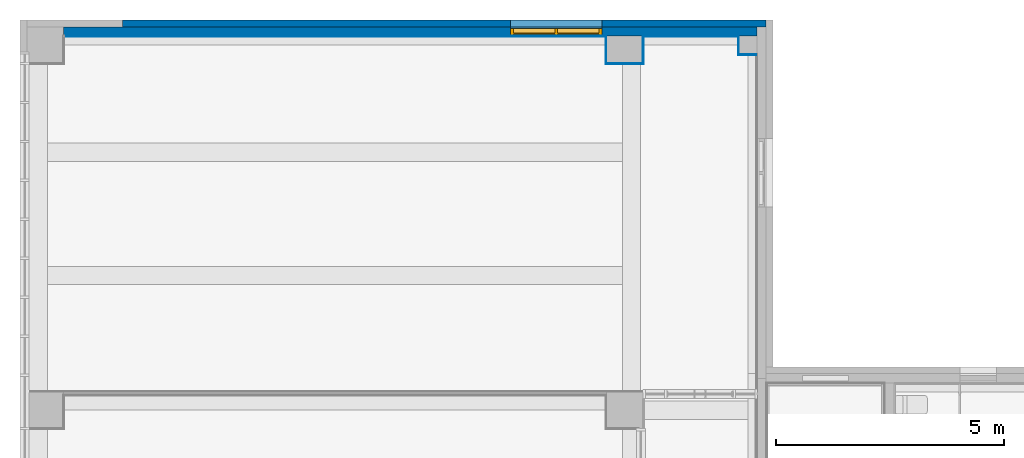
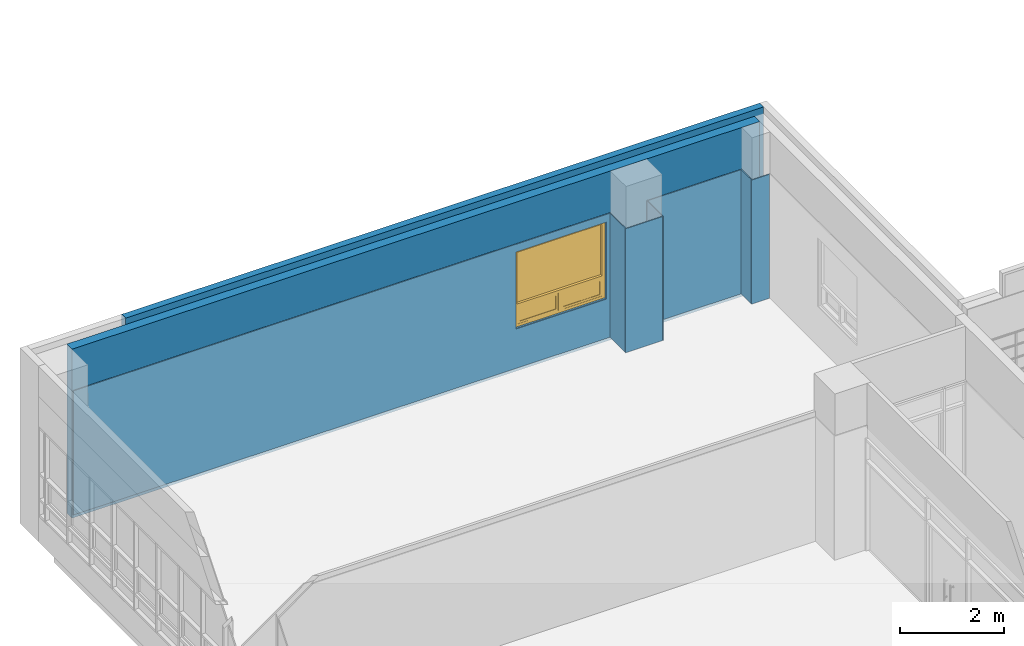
# One storey, part 67 of 81: 9 walls, 1 window, 3 openings.
"""IFC2X3 building model written with IfcOpenShell, lengths in millimetres."""

from ifc_helpers import new_model, entity, si_unit, converted_unit, derived_unit, direction, frame, frame_2d, origin, origin_2d_with_axis, place, context, subcontext, project, spatial, polyline, rectangle, extrude, clip, bounded_halfspace, faceted_brep, source, transform, mapped, material, material_list, layer, layer_set, layer_usage, type_object, type_shapes, element, fill, save


model = new_model("IFC2X3")

# Units and contexts
model_context = context("Model", 3, precision=0.01, world=origin(), true_north=direction((6.123031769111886e-17, 1.0)))
body_context = subcontext(model_context, "Body", "Model", "MODEL_VIEW")
ifc_project = project(units=[si_unit("LENGTHUNIT", "METRE", prefix="MILLI"), si_unit("AREAUNIT", "SQUARE_METRE"), si_unit("VOLUMEUNIT", "CUBIC_METRE"), converted_unit("PLANEANGLEUNIT", "DEGREE", entity("IfcRatioMeasure", 0.017453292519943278), si_unit("PLANEANGLEUNIT", "RADIAN"), dimensions=[0, 0, 0, 0, 0, 0, 0]), si_unit("MASSUNIT", "GRAM", prefix="KILO"), derived_unit("MASSDENSITYUNIT", [(si_unit("MASSUNIT", "GRAM", prefix="KILO"), 1), (si_unit("LENGTHUNIT", "METRE"), -3)]), derived_unit("MOMENTOFINERTIAUNIT", [(si_unit("LENGTHUNIT", "METRE"), 4)]), si_unit("TIMEUNIT", "SECOND"), si_unit("FREQUENCYUNIT", "HERTZ"), si_unit("THERMODYNAMICTEMPERATUREUNIT", "DEGREE_CELSIUS"), derived_unit("THERMALTRANSMITTANCEUNIT", [(si_unit("MASSUNIT", "GRAM", prefix="KILO"), 1), (si_unit("THERMODYNAMICTEMPERATUREUNIT", "KELVIN"), -1), (si_unit("TIMEUNIT", "SECOND"), -3)]), derived_unit("VOLUMETRICFLOWRATEUNIT", [(si_unit("LENGTHUNIT", "METRE"), 3), (si_unit("TIMEUNIT", "SECOND"), -1)]), derived_unit("MASSFLOWRATEUNIT", [(si_unit("MASSUNIT", "GRAM", prefix="KILO"), 1), (si_unit("TIMEUNIT", "SECOND"), -1)]), derived_unit("ROTATIONALFREQUENCYUNIT", [(si_unit("TIMEUNIT", "SECOND"), -1)]), si_unit("ELECTRICCURRENTUNIT", "AMPERE"), si_unit("ELECTRICVOLTAGEUNIT", "VOLT"), si_unit("POWERUNIT", "WATT"), si_unit("FORCEUNIT", "NEWTON", prefix="KILO"), si_unit("ILLUMINANCEUNIT", "LUX"), si_unit("LUMINOUSFLUXUNIT", "LUMEN"), si_unit("LUMINOUSINTENSITYUNIT", "CANDELA"), derived_unit("USERDEFINED", [(si_unit("MASSUNIT", "GRAM", prefix="KILO"), -1), (si_unit("LENGTHUNIT", "METRE"), -2), (si_unit("TIMEUNIT", "SECOND"), 3), (si_unit("LUMINOUSFLUXUNIT", "LUMEN"), 1)]), derived_unit("SOUNDPOWERUNIT", [(si_unit("MASSUNIT", "GRAM", prefix="KILO"), 1), (si_unit("LENGTHUNIT", "METRE"), 2), (si_unit("TIMEUNIT", "SECOND"), -3)]), derived_unit("SOUNDPRESSUREUNIT", [(si_unit("MASSUNIT", "GRAM", prefix="KILO"), 1), (si_unit("LENGTHUNIT", "METRE"), -1), (si_unit("TIMEUNIT", "SECOND"), -2)]), derived_unit("LINEARVELOCITYUNIT", [(si_unit("LENGTHUNIT", "METRE"), 1), (si_unit("TIMEUNIT", "SECOND"), -1)]), si_unit("PRESSUREUNIT", "PASCAL"), derived_unit("USERDEFINED", [(si_unit("LENGTHUNIT", "METRE"), -2), (si_unit("MASSUNIT", "GRAM", prefix="KILO"), 1), (si_unit("TIMEUNIT", "SECOND"), -2)]), derived_unit("LINEARFORCEUNIT", [(si_unit("MASSUNIT", "GRAM", prefix="KILO"), 1), (si_unit("LENGTHUNIT", "METRE"), 1), (si_unit("TIMEUNIT", "SECOND"), -2), (si_unit("LENGTHUNIT", "METRE"), -1)]), derived_unit("PLANARFORCEUNIT", [(si_unit("MASSUNIT", "GRAM", prefix="KILO"), 1), (si_unit("LENGTHUNIT", "METRE"), 1), (si_unit("TIMEUNIT", "SECOND"), -2), (si_unit("LENGTHUNIT", "METRE"), -2)])], contexts=[model_context])

# Site, building, storey
site_placement = place(None, frame((-14167.972527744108, -657.2125860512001, 0.0)))
site = spatial("IfcSite", under=ifc_project, at=site_placement, Name="Default", CompositionType="ELEMENT")
building_placement = place(site_placement, origin())
building = spatial("IfcBuilding", under=site, at=building_placement, Name="Sample Building", CompositionType="ELEMENT")
storey_placement = place(building_placement, frame((0.0, 0.0, 13400.0)))
storey = spatial("IfcBuildingStorey", under=building, at=storey_placement, Name="지상 4층", CompositionType="ELEMENT", Elevation=13400.00000000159)

# Wall, opening, window
ifc_material_1 = material(Name="KBIMS-콘크리트")
ifc_layer_1 = layer(ifc_material_1, 200.0)
ifc_layer_set_1 = layer_set([ifc_layer_1], Name="기본 벽:WA111-철근콘크리트구조 벽 200mm_W1")
ifc_layer_usage_1 = layer_usage(ifc_layer_set_1, "AXIS2", "NEGATIVE", 100.0)
wall_type_1 = type_object("IfcWallType", Name="기본 벽:WA111-철근콘크리트구조 벽 200mm_W1", PredefinedType="STANDARD", material=ifc_layer_set_1)
wall_1_placement = place(storey_placement, frame((14867.97245452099, 35657.21229514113, -2.3000097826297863e-09)))
wall_1 = element("IfcWallStandardCase", 1, at=wall_1_placement, inside=storey, type_object=wall_type_1, material=ifc_layer_usage_1, Name="기본 벽:WA111-철근콘크리트구조 벽 200mm_W1", ObjectType="기본 벽:WA111-철근콘크리트구조 벽 200mm_W1", context=body_context, shape_type="Clipping", body=[
    clip(extrude(rectangle(XDim=15199.991307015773, YDim=199.99999999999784, at=frame_2d((7599.995653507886, 1.2576606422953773e-12), x_axis=(-1.0, 0.0))), origin(), (0.0, 0.0, 1.0), 3950.0000000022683), bounded_halfspace(frame((15199.991307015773, -100.0, 3950.0), z_axis=(0.0, 0.0, -1.0), x_axis=(1.0, 0.0, 0.0)), True, frame((15199.991307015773, -100.0, 3950.0), z_axis=(0.0, 0.0, -1.0), x_axis=(1.0, 0.0, 0.0)), polyline([(0.0, 0.0), (-121925.28808374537, 0.0), (-762002.6273027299, -2.3000097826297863e-09), (-1005842.6273027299, -3.0320279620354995e-09), (-4632957.350378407, -1.265221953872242e-08), (-4632957.350378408, -60960.0), (-838194.6652913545, -60960.0), (0.0, -60960.0), (0.0, 0.0)]))),
])
opening_1_placement = place(wall_1_placement, frame((11800.008809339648, 100.0, 1000.0)))
opening_1 = element("IfcOpeningElement", 2, at=opening_1_placement, cuts=wall_1, Name="WD842-2단 하부 더블 프로젝트 창(스테인리스 스틸):WD842-2단 하부 더블 프로젝트 창(스테인리스 스틸)_2000x1800mm:1", ObjectType="Opening", context=body_context, shape_type="SweptSolid", body=[
    extrude(rectangle(XDim=1799.9999999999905, YDim=1999.9999999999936, at=frame_2d((899.9999999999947, 999.9999999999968), x_axis=(1.0, 0.0))), frame((0.0, 0.0, 0.0), z_axis=(0.0, -1.0, 0.0), x_axis=(0.0, 0.0, 1.0)), (0.0, 0.0, 1.0), 200.0),
])
ifc_material_2 = material(Name="KBIMS-스테인리스 스틸_도금")
ifc_material_3 = material(Name="KBIMS-유리")
ifc_material_list_1 = material_list([ifc_material_2, ifc_material_3, ifc_material_2, ifc_material_3, ifc_material_2, ifc_material_2, ifc_material_3])
ifc_material_list_2 = material_list([ifc_material_2, ifc_material_3, ifc_material_2, ifc_material_3, ifc_material_2, ifc_material_2, ifc_material_3])
window_style = type_object("IfcWindowStyle", Name="WD842-2단 하부 더블 프로젝트 창(스테인리스 스틸):WD842-2단 하부 더블 프로젝트 창(스테인리스 스틸)_2000x1800mm", ConstructionType="NOTDEFINED", OperationType="NOTDEFINED", ParameterTakesPrecedence=False, Sizeable=False, material=ifc_material_list_2)
shared_shape = source(origin(), body_context, "Body", "Brep", [
    faceted_brep([(60.0, 37.49999999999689, 470.0), (60.0, 162.4999999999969, 470.0), (970.0, 162.4999999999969, 470.0), (970.0, 37.49999999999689, 470.0), (0.0, 162.4999999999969, 530.0), (0.0, 37.49999999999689, 530.0), (60.0, 37.49999999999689, 530.0), (1940.0, 37.49999999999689, 530.0), (2000.0, 37.49999999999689, 530.0), (2000.0, 162.4999999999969, 530.0), (1940.0, 162.4999999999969, 530.0), (60.0, 162.4999999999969, 530.0), (1940.0, 37.49999999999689, 470.0), (1940.0, 162.4999999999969, 470.0), (1940.0, 162.4999999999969, 60.0), (1940.0, 37.49999999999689, 60.0), (2000.0, 37.49999999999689, 0.0), (2000.0, 162.4999999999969, 0.0), (1030.0, 162.4999999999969, 60.0), (1030.0, 37.49999999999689, 60.0), (0.0, 37.49999999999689, 0.0), (0.0, 162.4999999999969, 0.0), (60.0, 37.49999999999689, 60.0), (60.0, 162.4999999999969, 60.0), (1030.0, 37.49999999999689, 470.0), (970.0, 37.49999999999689, 60.0), (1030.0, 162.4999999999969, 470.0), (970.0, 162.4999999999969, 60.0)], [[[0, 1, 2, 3]], [[4, 5, 6, 7, 8, 9, 10, 11]], [[12, 13, 14, 15]], [[9, 8, 16, 17]], [[15, 14, 18, 19]], [[17, 16, 20, 21]], [[1, 0, 22, 23]], [[8, 7, 6, 5, 20, 16], [12, 15, 19, 24], [0, 3, 25, 22]], [[5, 4, 21, 20]], [[14, 13, 26, 18], [23, 27, 2, 1], [4, 11, 10, 9, 17, 21]], [[18, 26, 24, 19]], [[2, 27, 25, 3]], [[23, 22, 25, 27]], [[13, 12, 24, 26]]], outer=[[True], [True], [True], [True], [True], [True], [True], [True, False, False], [True], [False, False, True], [True], [True], [True], [True]]),
    faceted_brep([(930.0, 151.0, 430.0), (930.0, 139.0, 430.0), (930.0, 139.0, 100.0), (930.0, 151.0, 100.0), (100.0, 139.0, 430.0), (100.0, 139.0, 100.0), (100.0, 151.0, 430.0), (100.0, 151.0, 100.0)], [[[0, 1, 2, 3]], [[1, 4, 5, 2]], [[4, 6, 7, 5]], [[0, 6, 4, 1]], [[3, 2, 5, 7]], [[6, 0, 3, 7]]]),
    faceted_brep([(110.0, 151.0, 420.0), (110.0, 160.0, 420.0), (920.0, 160.0, 420.0), (920.0, 151.0, 420.0), (100.0, 139.0, 430.0), (100.0, 151.0, 430.0), (930.0, 151.0, 430.0), (930.0, 139.0, 430.0), (110.0, 130.0, 420.0), (110.0, 139.0, 420.0), (920.0, 139.0, 420.0), (920.0, 130.0, 420.0), (60.0, 160.0, 470.0), (60.0, 130.0, 470.0), (970.0, 130.0, 470.0), (970.0, 160.0, 470.0), (920.0, 160.0, 110.0), (920.0, 151.0, 110.0), (930.0, 151.0, 100.0), (930.0, 139.0, 100.0), (920.0, 139.0, 110.0), (920.0, 130.0, 110.0), (970.0, 130.0, 60.0), (970.0, 160.0, 60.0), (110.0, 160.0, 110.0), (110.0, 151.0, 110.0), (100.0, 151.0, 100.0), (100.0, 139.0, 100.0), (110.0, 139.0, 110.0), (110.0, 130.0, 110.0), (60.0, 130.0, 60.0), (60.0, 160.0, 60.0)], [[[0, 1, 2, 3]], [[4, 5, 6, 7]], [[8, 9, 10, 11]], [[12, 13, 14, 15]], [[3, 2, 16, 17]], [[7, 6, 18, 19]], [[11, 10, 20, 21]], [[15, 14, 22, 23]], [[17, 16, 24, 25]], [[19, 18, 26, 27]], [[21, 20, 28, 29]], [[23, 22, 30, 31]], [[25, 24, 1, 0]], [[3, 17, 25, 0], [5, 26, 18, 6]], [[27, 26, 5, 4]], [[7, 19, 27, 4], [9, 28, 20, 10]], [[29, 28, 9, 8]], [[11, 21, 29, 8], [13, 30, 22, 14]], [[31, 30, 13, 12]], [[1, 24, 16, 2], [15, 23, 31, 12]]], outer=[[True], [True], [True], [True], [True], [True], [True], [True], [True], [True], [True], [True], [True], [False, True], [True], [True, False], [True], [False, True], [True], [False, True]]),
    faceted_brep([(1900.0, 151.0, 430.0), (1070.0, 151.0, 430.0), (1070.0, 139.0, 430.0), (1900.0, 139.0, 430.0), (1900.0, 151.0, 100.0), (1900.0, 139.0, 100.0), (1070.0, 139.0, 100.0), (1070.0, 151.0, 100.0)], [[[0, 1, 2, 3]], [[4, 5, 6, 7]], [[1, 0, 4, 7]], [[2, 1, 7, 6]], [[3, 2, 6, 5]], [[0, 3, 5, 4]]]),
    faceted_brep([(1070.0, 139.0, 100.0), (1070.0, 151.0, 100.0), (1070.0, 151.0, 430.0), (1070.0, 139.0, 430.0), (1890.0, 151.0, 420.0), (1890.0, 151.0, 110.0), (1080.0, 151.0, 110.0), (1080.0, 151.0, 420.0), (1900.0, 151.0, 100.0), (1900.0, 151.0, 430.0), (1080.0, 160.0, 110.0), (1080.0, 160.0, 420.0), (1890.0, 160.0, 420.0), (1890.0, 160.0, 110.0), (1900.0, 139.0, 430.0), (1900.0, 139.0, 100.0), (1890.0, 130.0, 420.0), (1890.0, 139.0, 420.0), (1890.0, 139.0, 110.0), (1890.0, 130.0, 110.0), (1080.0, 130.0, 420.0), (1080.0, 139.0, 420.0), (1030.0, 160.0, 470.0), (1030.0, 130.0, 470.0), (1940.0, 130.0, 470.0), (1940.0, 160.0, 470.0), (1940.0, 130.0, 60.0), (1940.0, 160.0, 60.0), (1080.0, 139.0, 110.0), (1080.0, 130.0, 110.0), (1030.0, 130.0, 60.0), (1030.0, 160.0, 60.0)], [[[0, 1, 2, 3]], [[4, 5, 6, 7], [2, 1, 8, 9]], [[6, 10, 11, 7]], [[4, 12, 13, 5]], [[14, 9, 8, 15]], [[16, 17, 18, 19]], [[7, 11, 12, 4]], [[3, 2, 9, 14]], [[20, 21, 17, 16]], [[22, 23, 24, 25]], [[25, 24, 26, 27]], [[5, 13, 10, 6]], [[15, 8, 1, 0]], [[19, 18, 28, 29]], [[27, 26, 30, 31]], [[14, 15, 0, 3], [21, 28, 18, 17]], [[29, 28, 21, 20]], [[16, 19, 29, 20], [23, 30, 26, 24]], [[31, 30, 23, 22]], [[11, 10, 13, 12], [25, 27, 31, 22]]], outer=[[True], [False, True], [True], [True], [True], [True], [True], [True], [True], [True], [True], [True], [True], [True], [True], [True, False], [True], [False, True], [True], [False, True]]),
    faceted_brep([(60.0, 37.50000000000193, 1740.0), (60.0, 162.50000000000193, 1740.0), (1940.0, 162.50000000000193, 1740.0), (1940.0, 37.50000000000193, 1740.0), (0.0, 162.50000000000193, 1800.0), (0.0, 37.50000000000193, 1800.0), (2000.0, 37.50000000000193, 1800.0), (2000.0, 162.50000000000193, 1800.0), (1940.0, 162.50000000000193, 530.0), (1940.0, 37.50000000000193, 530.0), (2000.0, 37.50000000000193, 530.0), (2000.0, 162.50000000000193, 530.0), (60.0, 37.50000000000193, 530.0), (60.0, 162.50000000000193, 530.0), (0.0, 37.50000000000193, 530.0), (0.0, 162.50000000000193, 530.0)], [[[0, 1, 2, 3]], [[4, 5, 6, 7]], [[3, 2, 8, 9]], [[7, 6, 10, 11]], [[1, 0, 12, 13]], [[0, 3, 9, 10, 6, 5, 14, 12]], [[5, 4, 15, 14]], [[2, 1, 13, 15, 4, 7, 11, 8]], [[13, 12, 14, 15]], [[9, 8, 11, 10]]]),
    faceted_brep([(1940.0, 106.0, 1740.0), (60.0, 106.0, 1740.0), (60.0, 94.0, 1740.0), (1940.0, 94.0, 1740.0), (1940.0, 106.0, 530.0), (60.0, 106.0, 530.0), (60.0, 94.0, 530.0), (1940.0, 94.0, 530.0)], [[[0, 1, 2, 3]], [[1, 0, 4, 5]], [[2, 1, 5, 6]], [[3, 2, 6, 7]], [[0, 3, 7, 4]], [[5, 4, 7, 6]]]),
])
type_shapes(window_style, [shared_shape])
window_placement = place(opening_1_placement, frame((0.0, 0.0, 2.2992026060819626e-09), z_axis=(0.0, 0.0, 1.0), x_axis=(-1.0, 0.0, 0.0)))
window = element("IfcWindow", 3, at=window_placement, inside=storey, type_object=window_style, material=ifc_material_list_1, Name="WD842-2단 하부 더블 프로젝트 창(스테인리스 스틸):WD842-2단 하부 더블 프로젝트 창(스테인리스 스틸)_2000x1800mm", ObjectType="WD842-2단 하부 더블 프로젝트 창(스테인리스 스틸):WD842-2단 하부 더블 프로젝트 창(스테인리스 스틸)_2000x1800mm", OverallHeight=1799.9999999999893, OverallWidth=1999.999999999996, context=body_context, shape_type="MappedRepresentation", body=[
    mapped(shared_shape, transform((0.0, 0.0, 0.0), scale=1.0)),
])
fill(opening_1, window)

# Wall, opening
ifc_material_4 = material(Name="WA240-ALC블록벽")
ifc_layer_2 = layer(ifc_material_4, 35.0)
ifc_material_5 = material(Name="WA795-(STEEL)BRACKET")
ifc_layer_3 = layer(ifc_material_5, 65.0)
ifc_material_6 = material(Name="WA821-압출스티로폼 벽 (본드붙임, 비중0.03) 50mm")
ifc_layer_4 = layer(ifc_material_6, 50.0)
ifc_layer_set_2 = layer_set([ifc_layer_2, ifc_layer_3, ifc_layer_4], Name="기본 벽:A2-22-02A-압출스티로폼, BRACKET(STEEL), ALC블록 (150mm)")
ifc_layer_usage_2 = layer_usage(ifc_layer_set_2, "AXIS2", "POSITIVE", -75.0)
wall_type_2 = type_object("IfcWallType", Name="기본 벽:A2-22-02A-압출스티로폼, BRACKET(STEEL), ALC블록 (150mm)", PredefinedType="STANDARD", material=ifc_layer_set_2)
wall_2_placement = place(storey_placement, frame((30267.963761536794, 35832.21229514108, -2.3000097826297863e-09), z_axis=(0.0, 0.0, 1.0), x_axis=(-1.0, 0.0, 0.0)))
wall_2 = element("IfcWallStandardCase", 4, at=wall_2_placement, inside=storey, type_object=wall_type_2, material=ifc_layer_usage_2, Name="기본 벽:A2-22-02A-압출스티로폼, BRACKET(STEEL), ALC블록 (150mm)", ObjectType="기본 벽:A2-22-02A-압출스티로폼, BRACKET(STEEL), ALC블록 (150mm)", context=body_context, shape_type="SweptSolid", body=[
    extrude(rectangle(XDim=150.00000000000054, YDim=14100.624106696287, at=frame_2d((2.1671553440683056e-12, 2.2737367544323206e-12), x_axis=(1.0, 0.0))), frame((7050.312053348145, 0.0, 0.0), z_axis=(0.0, 0.0, 1.0), x_axis=(0.0, 1.0, 0.0)), (0.0, 0.0, 1.0), 4099.999999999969),
])
opening_2_placement = place(storey_placement, frame((30267.963761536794, 35832.21229514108, -2.3000097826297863e-09), z_axis=(0.0, 0.0, 1.0), x_axis=(-1.0, 0.0, 0.0)))
element("IfcOpeningElement", 5, at=opening_2_placement, cuts=wall_2, Name="기본 벽:A2-22-02A-압출스티로폼, BRACKET(STEEL), ALC블록 (150mm):1", ObjectType="Opening", context=body_context, shape_type="SweptSolid", body=[
    extrude(rectangle(XDim=1799.9999999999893, YDim=1999.999999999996, at=origin_2d_with_axis()), frame((4599.982497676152, -75.0, 1900.0), z_axis=(0.0, 1.0, 0.0), x_axis=(0.0, 0.0, 1.0)), (0.0, 0.0, 1.0), 150.00000000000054),
])

# Walls
ifc_material_7 = material(Name="WA611-수성페인트 (내부) 벽 (3회)")
ifc_layer_5 = layer(ifc_material_7, 1.0)
ifc_material_8 = material(Name="WA551-시멘트모르타르 (내부) 벽 18mm")
ifc_layer_6 = layer(ifc_material_8, 16.0)
ifc_material_9 = material(Name="WA555-콘크리트면정리 벽 (내부)")
ifc_layer_7 = layer(ifc_material_9, 1.0)
ifc_layer_set_3 = layer_set([ifc_layer_5, ifc_layer_6, ifc_layer_7], Name="기본 벽:A1-32-06A-콘크리트면정리, 시멘트모르타르(미장용), 수성페인트(내부) (18mm)")
ifc_layer_usage_3 = layer_usage(ifc_layer_set_3, "AXIS2", "NEGATIVE", 9.000000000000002)
wall_type_3 = type_object("IfcWallType", Name="기본 벽:A1-32-06A-콘크리트면정리, 시멘트모르타르(미장용), 수성페인트(내부) (18mm)", PredefinedType="STANDARD", material=ifc_layer_set_3)
wall_3_placement = place(storey_placement, frame((30049.96376153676, 35148.211898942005, 80.0), z_axis=(0.0, 0.0, 1.0), x_axis=(-1.0, 0.0, 0.0)))
element("IfcWallStandardCase", 6, at=wall_3_placement, inside=storey, type_object=wall_type_3, material=ifc_layer_usage_3, Name="기본 벽:A1-32-06A-콘크리트면정리, 시멘트모르타르(미장용), 수성페인트(내부) (18mm)", ObjectType="기본 벽:A1-32-06A-콘크리트면정리, 시멘트모르타르(미장용), 수성페인트(내부) (18mm)", context=body_context, shape_type="SweptSolid", body=[
    extrude(rectangle(XDim=399.9999815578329, YDim=18.00000000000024, at=frame_2d((199.99999077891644, -2.1662671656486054e-12), x_axis=(-1.0, 0.0))), origin(), (0.0, 0.0, 1.0), 2899.999999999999),
])
ifc_layer_usage_4 = layer_usage(ifc_layer_set_3, "AXIS2", "NEGATIVE", 9.000000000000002)
wall_4_placement = place(storey_placement, frame((29658.963779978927, 35157.211898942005, 80.0), z_axis=(0.0, 0.0, 1.0), x_axis=(0.0, 1.0, 0.0)))
element("IfcWallStandardCase", 7, at=wall_4_placement, inside=storey, type_object=wall_type_3, material=ifc_layer_usage_4, Name="기본 벽:A1-32-06A-콘크리트면정리, 시멘트모르타르(미장용), 수성페인트(내부) (18mm)", ObjectType="기본 벽:A1-32-06A-콘크리트면정리, 시멘트모르타르(미장용), 수성페인트(내부) (18mm)", context=body_context, shape_type="SweptSolid", body=[
    extrude(rectangle(XDim=399.99998715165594, YDim=18.00000000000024, at=frame_2d((199.99999357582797, -2.1662671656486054e-12), x_axis=(-1.0, 0.0))), origin(), (0.0, 0.0, 1.0), 2899.999999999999),
])
ifc_layer_usage_5 = layer_usage(ifc_layer_set_3, "AXIS2", "NEGATIVE", 9.000000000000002)
wall_5_placement = place(storey_placement, frame((29649.96377997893, 35548.21188609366, 80.0), z_axis=(0.0, 0.0, 1.0), x_axis=(-1.0, 0.0, 0.0)))
element("IfcWallStandardCase", 8, at=wall_5_placement, inside=storey, type_object=wall_type_3, material=ifc_layer_usage_5, Name="기본 벽:A1-32-06A-콘크리트면정리, 시멘트모르타르(미장용), 수성페인트(내부) (18mm)", ObjectType="기본 벽:A1-32-06A-콘크리트면정리, 시멘트모르타르(미장용), 수성페인트(내부) (18mm)", context=body_context, shape_type="SweptSolid", body=[
    extrude(rectangle(XDim=2082.0086382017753, YDim=18.00000000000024, at=frame_2d((1041.0043191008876, -2.1662671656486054e-12), x_axis=(-1.0, 0.0))), origin(), (0.0, 0.0, 1.0), 2899.999999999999),
])
ifc_layer_usage_6 = layer_usage(ifc_layer_set_3, "AXIS2", "NEGATIVE", 9.000000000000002)
wall_6_placement = place(storey_placement, frame((27576.955141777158, 35539.21188609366, 80.0), z_axis=(0.0, 0.0, 1.0), x_axis=(0.0, -1.0, 0.0)))
element("IfcWallStandardCase", 9, at=wall_6_placement, inside=storey, type_object=wall_type_3, material=ifc_layer_usage_6, Name="기본 벽:A1-32-06A-콘크리트면정리, 시멘트모르타르(미장용), 수성페인트(내부) (18mm)", ObjectType="기본 벽:A1-32-06A-콘크리트면정리, 시멘트모르타르(미장용), 수성페인트(내부) (18mm)", context=body_context, shape_type="SweptSolid", body=[
    extrude(rectangle(XDim=600.0000145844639, YDim=18.00000000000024, at=frame_2d((300.00000729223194, -2.1662671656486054e-12), x_axis=(-1.0, 0.0))), origin(), (0.0, 0.0, 1.0), 2899.999999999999),
])
ifc_layer_usage_7 = layer_usage(ifc_layer_set_3, "AXIS2", "NEGATIVE", 9.000000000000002)
wall_7_placement = place(storey_placement, frame((27567.955141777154, 34948.21187150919, 80.0), z_axis=(0.0, 0.0, 1.0), x_axis=(-1.0, 0.0, 0.0)))
element("IfcWallStandardCase", 10, at=wall_7_placement, inside=storey, type_object=wall_type_3, material=ifc_layer_usage_7, Name="기본 벽:A1-32-06A-콘크리트면정리, 시멘트모르타르(미장용), 수성페인트(내부) (18mm)", ObjectType="기본 벽:A1-32-06A-콘크리트면정리, 시멘트모르타르(미장용), 수성페인트(내부) (18mm)", context=body_context, shape_type="SweptSolid", body=[
    extrude(rectangle(XDim=818.0000000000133, YDim=18.00000000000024, at=frame_2d((409.00000000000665, -2.1662671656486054e-12), x_axis=(-1.0, 0.0))), origin(), (0.0, 0.0, 1.0), 2899.999999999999),
])
ifc_layer_usage_8 = layer_usage(ifc_layer_set_3, "AXIS2", "NEGATIVE", 9.000000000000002)
wall_8_placement = place(storey_placement, frame((26758.95514177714, 34957.21187150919, 80.0), z_axis=(0.0, 0.0, 1.0), x_axis=(0.0, 1.0, 0.0)))
element("IfcWallStandardCase", 11, at=wall_8_placement, inside=storey, type_object=wall_type_3, material=ifc_layer_usage_8, Name="기본 벽:A1-32-06A-콘크리트면정리, 시멘트모르타르(미장용), 수성페인트(내부) (18mm)", ObjectType="기본 벽:A1-32-06A-콘크리트면정리, 시멘트모르타르(미장용), 수성페인트(내부) (18mm)", context=body_context, shape_type="SweptSolid", body=[
    extrude(rectangle(XDim=600.0000145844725, YDim=18.00000000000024, at=frame_2d((300.00000729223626, -2.1662671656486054e-12), x_axis=(-1.0, 0.0))), origin(), (0.0, 0.0, 1.0), 2899.999999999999),
])

# Wall, opening
ifc_layer_usage_9 = layer_usage(ifc_layer_set_3, "AXIS2", "NEGATIVE", 9.000000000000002)
wall_9_placement = place(storey_placement, frame((26749.95514177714, 35548.21188609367, 80.0), z_axis=(0.0, 0.0, 1.0), x_axis=(-1.0, 0.0, 0.0)))
wall_9 = element("IfcWallStandardCase", 12, at=wall_9_placement, inside=storey, type_object=wall_type_3, material=ifc_layer_usage_9, Name="기본 벽:A1-32-06A-콘크리트면정리, 시멘트모르타르(미장용), 수성페인트(내부) (18mm)", ObjectType="기본 벽:A1-32-06A-콘크리트면정리, 시멘트모르타르(미장용), 수성페인트(내부) (18mm)", context=body_context, shape_type="SweptSolid", body=[
    extrude(rectangle(XDim=11863.982668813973, YDim=18.00000000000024, at=frame_2d((5931.991334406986, -2.1662671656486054e-12), x_axis=(-1.0, 0.0))), origin(), (0.0, 0.0, 1.0), 2899.999999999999),
])
opening_3_placement = place(wall_9_placement, origin())
element("IfcOpeningElement", 13, at=opening_3_placement, cuts=wall_9, Name="기본 벽:A1-32-06A-콘크리트면정리, 시멘트모르타르(미장용), 수성페인트(내부) (18mm)", ObjectType="Opening", context=body_context, shape_type="SweptSolid", body=[
    extrude(rectangle(XDim=1799.9999999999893, YDim=1999.9999999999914, at=frame_2d((0.0, 2.2168933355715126e-12), x_axis=(1.0, 0.0))), frame((1081.973877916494, -1733.0004090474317, 1820.0), z_axis=(0.0, 1.0, 0.0), x_axis=(0.0, 0.0, 1.0)), (0.0, 0.0, 1.0), 3048.0),
])

save(model, "model.ifc")
